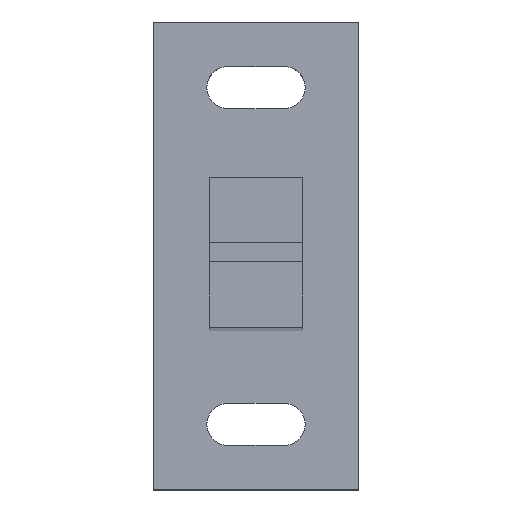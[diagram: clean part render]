
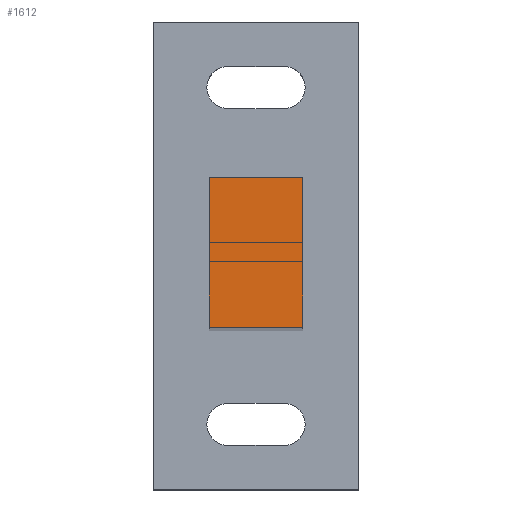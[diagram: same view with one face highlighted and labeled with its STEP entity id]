
A CAD part, top view. The second image highlights one B-rep face of the part: STEP entity #1612.
In plain terms, the highlighted planar face has unit normal (0, 0, 1).
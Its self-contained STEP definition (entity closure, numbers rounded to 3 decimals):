
#403 = PLANE('',#404);
#404 = AXIS2_PLACEMENT_3D('',#405,#406,#407);
#405 = CARTESIAN_POINT('',(6.,17.,0.));
#406 = DIRECTION('',(0.,1.,0.));
#407 = DIRECTION('',(0.,0.,1.));
#431 = PLANE('',#432);
#432 = AXIS2_PLACEMENT_3D('',#433,#434,#435);
#433 = CARTESIAN_POINT('',(6.,17.,0.));
#434 = DIRECTION('',(1.,0.,0.));
#435 = DIRECTION('',(0.,0.,1.));
#459 = PLANE('',#460);
#460 = AXIS2_PLACEMENT_3D('',#461,#462,#463);
#461 = CARTESIAN_POINT('',(6.,33.,0.));
#462 = DIRECTION('',(0.,1.,0.));
#463 = DIRECTION('',(0.,0.,1.));
#485 = PLANE('',#486);
#486 = AXIS2_PLACEMENT_3D('',#487,#488,#489);
#487 = CARTESIAN_POINT('',(16.,17.,0.));
#488 = DIRECTION('',(1.,0.,0.));
#489 = DIRECTION('',(0.,0.,1.));
#1004 = VERTEX_POINT('',#1005);
#1005 = CARTESIAN_POINT('',(16.,17.,229.));
#1028 = VERTEX_POINT('',#1029);
#1029 = CARTESIAN_POINT('',(6.,17.,229.));
#1050 = EDGE_CURVE('',#1028,#1004,#1051,.T.);
#1051 = SURFACE_CURVE('',#1052,(#1056,#1063),.PCURVE_S1.);
#1052 = LINE('',#1053,#1054);
#1053 = CARTESIAN_POINT('',(6.,17.,229.));
#1054 = VECTOR('',#1055,1.);
#1055 = DIRECTION('',(1.,0.,0.));
#1056 = PCURVE('',#403,#1057);
#1057 = DEFINITIONAL_REPRESENTATION('',(#1058),#1062);
#1058 = LINE('',#1059,#1060);
#1059 = CARTESIAN_POINT('',(229.,0.));
#1060 = VECTOR('',#1061,1.);
#1061 = DIRECTION('',(0.,1.));
#1062 = ( GEOMETRIC_REPRESENTATION_CONTEXT(2) 
PARAMETRIC_REPRESENTATION_CONTEXT() REPRESENTATION_CONTEXT('2D SPACE',''
  ) );
#1063 = PCURVE('',#1064,#1069);
#1064 = PLANE('',#1065);
#1065 = AXIS2_PLACEMENT_3D('',#1066,#1067,#1068);
#1066 = CARTESIAN_POINT('',(6.,17.,229.));
#1067 = DIRECTION('',(0.,0.,1.));
#1068 = DIRECTION('',(1.,0.,0.));
#1069 = DEFINITIONAL_REPRESENTATION('',(#1070),#1074);
#1070 = LINE('',#1071,#1072);
#1071 = CARTESIAN_POINT('',(0.,0.));
#1072 = VECTOR('',#1073,1.);
#1073 = DIRECTION('',(1.,0.));
#1074 = ( GEOMETRIC_REPRESENTATION_CONTEXT(2) 
PARAMETRIC_REPRESENTATION_CONTEXT() REPRESENTATION_CONTEXT('2D SPACE',''
  ) );
#1082 = VERTEX_POINT('',#1083);
#1083 = CARTESIAN_POINT('',(16.,33.,229.));
#1104 = EDGE_CURVE('',#1004,#1082,#1105,.T.);
#1105 = SURFACE_CURVE('',#1106,(#1110,#1117),.PCURVE_S1.);
#1106 = LINE('',#1107,#1108);
#1107 = CARTESIAN_POINT('',(16.,17.,229.));
#1108 = VECTOR('',#1109,1.);
#1109 = DIRECTION('',(0.,1.,0.));
#1110 = PCURVE('',#485,#1111);
#1111 = DEFINITIONAL_REPRESENTATION('',(#1112),#1116);
#1112 = LINE('',#1113,#1114);
#1113 = CARTESIAN_POINT('',(229.,0.));
#1114 = VECTOR('',#1115,1.);
#1115 = DIRECTION('',(0.,-1.));
#1116 = ( GEOMETRIC_REPRESENTATION_CONTEXT(2) 
PARAMETRIC_REPRESENTATION_CONTEXT() REPRESENTATION_CONTEXT('2D SPACE',''
  ) );
#1117 = PCURVE('',#1064,#1118);
#1118 = DEFINITIONAL_REPRESENTATION('',(#1119),#1123);
#1119 = LINE('',#1120,#1121);
#1120 = CARTESIAN_POINT('',(10.,0.));
#1121 = VECTOR('',#1122,1.);
#1122 = DIRECTION('',(0.,1.));
#1123 = ( GEOMETRIC_REPRESENTATION_CONTEXT(2) 
PARAMETRIC_REPRESENTATION_CONTEXT() REPRESENTATION_CONTEXT('2D SPACE',''
  ) );
#1280 = VERTEX_POINT('',#1281);
#1281 = CARTESIAN_POINT('',(6.,33.,229.));
#1302 = EDGE_CURVE('',#1280,#1082,#1303,.T.);
#1303 = SURFACE_CURVE('',#1304,(#1308,#1315),.PCURVE_S1.);
#1304 = LINE('',#1305,#1306);
#1305 = CARTESIAN_POINT('',(6.,33.,229.));
#1306 = VECTOR('',#1307,1.);
#1307 = DIRECTION('',(1.,0.,0.));
#1308 = PCURVE('',#459,#1309);
#1309 = DEFINITIONAL_REPRESENTATION('',(#1310),#1314);
#1310 = LINE('',#1311,#1312);
#1311 = CARTESIAN_POINT('',(229.,0.));
#1312 = VECTOR('',#1313,1.);
#1313 = DIRECTION('',(0.,1.));
#1314 = ( GEOMETRIC_REPRESENTATION_CONTEXT(2) 
PARAMETRIC_REPRESENTATION_CONTEXT() REPRESENTATION_CONTEXT('2D SPACE',''
  ) );
#1315 = PCURVE('',#1064,#1316);
#1316 = DEFINITIONAL_REPRESENTATION('',(#1317),#1321);
#1317 = LINE('',#1318,#1319);
#1318 = CARTESIAN_POINT('',(0.,16.));
#1319 = VECTOR('',#1320,1.);
#1320 = DIRECTION('',(1.,0.));
#1321 = ( GEOMETRIC_REPRESENTATION_CONTEXT(2) 
PARAMETRIC_REPRESENTATION_CONTEXT() REPRESENTATION_CONTEXT('2D SPACE',''
  ) );
#1360 = EDGE_CURVE('',#1028,#1280,#1361,.T.);
#1361 = SURFACE_CURVE('',#1362,(#1366,#1373),.PCURVE_S1.);
#1362 = LINE('',#1363,#1364);
#1363 = CARTESIAN_POINT('',(6.,17.,229.));
#1364 = VECTOR('',#1365,1.);
#1365 = DIRECTION('',(0.,1.,0.));
#1366 = PCURVE('',#431,#1367);
#1367 = DEFINITIONAL_REPRESENTATION('',(#1368),#1372);
#1368 = LINE('',#1369,#1370);
#1369 = CARTESIAN_POINT('',(229.,0.));
#1370 = VECTOR('',#1371,1.);
#1371 = DIRECTION('',(0.,-1.));
#1372 = ( GEOMETRIC_REPRESENTATION_CONTEXT(2) 
PARAMETRIC_REPRESENTATION_CONTEXT() REPRESENTATION_CONTEXT('2D SPACE',''
  ) );
#1373 = PCURVE('',#1064,#1374);
#1374 = DEFINITIONAL_REPRESENTATION('',(#1375),#1379);
#1375 = LINE('',#1376,#1377);
#1376 = CARTESIAN_POINT('',(0.,0.));
#1377 = VECTOR('',#1378,1.);
#1378 = DIRECTION('',(0.,1.));
#1379 = ( GEOMETRIC_REPRESENTATION_CONTEXT(2) 
PARAMETRIC_REPRESENTATION_CONTEXT() REPRESENTATION_CONTEXT('2D SPACE',''
  ) );
#1612 = ADVANCED_FACE('',(#1613),#1064,.T.);
#1613 = FACE_BOUND('',#1614,.T.);
#1614 = EDGE_LOOP('',(#1615,#1616,#1617,#1618));
#1615 = ORIENTED_EDGE('',*,*,#1360,.F.);
#1616 = ORIENTED_EDGE('',*,*,#1050,.T.);
#1617 = ORIENTED_EDGE('',*,*,#1104,.T.);
#1618 = ORIENTED_EDGE('',*,*,#1302,.F.);
